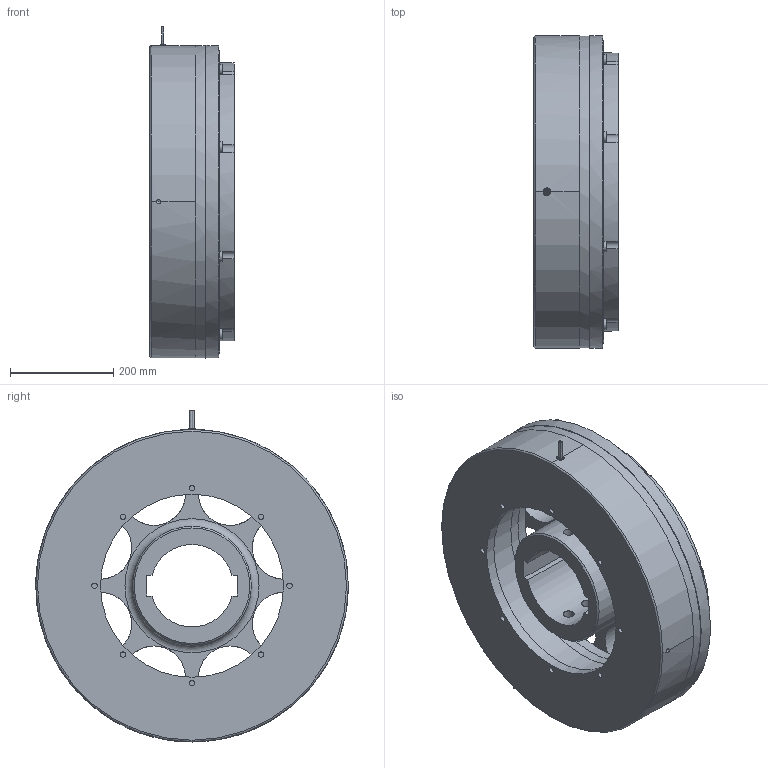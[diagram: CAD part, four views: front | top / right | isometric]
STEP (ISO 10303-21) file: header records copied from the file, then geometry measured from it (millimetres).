
FILE_DESCRIPTION(/* description */ (''),/* implementation_level */ '2;1');
FILE_NAME(/* name */ 'X:\INVENTOR\DISEGNI\08_Freni_Friz_Elettmag_Monodisco\08_28 EMFL_DF\EMFL_DF STEP\08_28_600_13 EMFL600_DF-C-MI@STEP.stp',/* time_stamp */ '2018-04-23T09:40:13+02:00',/* author */ ('stefano'),/* organization */ (''),/* preprocessor_version */ 'ST-DEVELOPER v17',/* originating_system */ 'Autodesk Inventor 2018',/* authorisation */ '');
FILE_SCHEMA (('AUTOMOTIVE_DESIGN { 1 0 10303 214 3 1 1 }'));
Length unit declared in the file: millimetre
Products named in the file (1): 08_28_600_13 EMFL600_DF-C-MI_Substitute_1
Bounding box: 163 x 606 x 643.72 mm (x, y, z)
Volume: 27031163.8 mm3; surface area: 2027430.1 mm2
Topology: 4 solids, 4 shells, 695 faces, 2159 edges, 1434 vertices
Faces by surface type: cylinder 336, plane 280, cone 66, torus 10, bspline 3
Full cylindrical faces by diameter (mm): 5 x16, 8.376 x1, 10.5 x8, 12 x1, 13.835 x8, 14 x16, 15 x1, 19.8 x16, 20 x16, 20.752 x4, 22 x16, 24 x8, 122 x8, 230 x1, 355 x1, 398 x2, 410 x1, 452 x2, 468 x1, 550 x1, 566 x2, 605 x1, 606 x1
Entity records: 26042 total; most frequent: CARTESIAN_POINT 4907, DIRECTION 4718, ORIENTED_EDGE 4304, EDGE_CURVE 2152, AXIS2_PLACEMENT_3D 1955, VERTEX_POINT 1435, CIRCLE 1262, EDGE_LOOP 858
